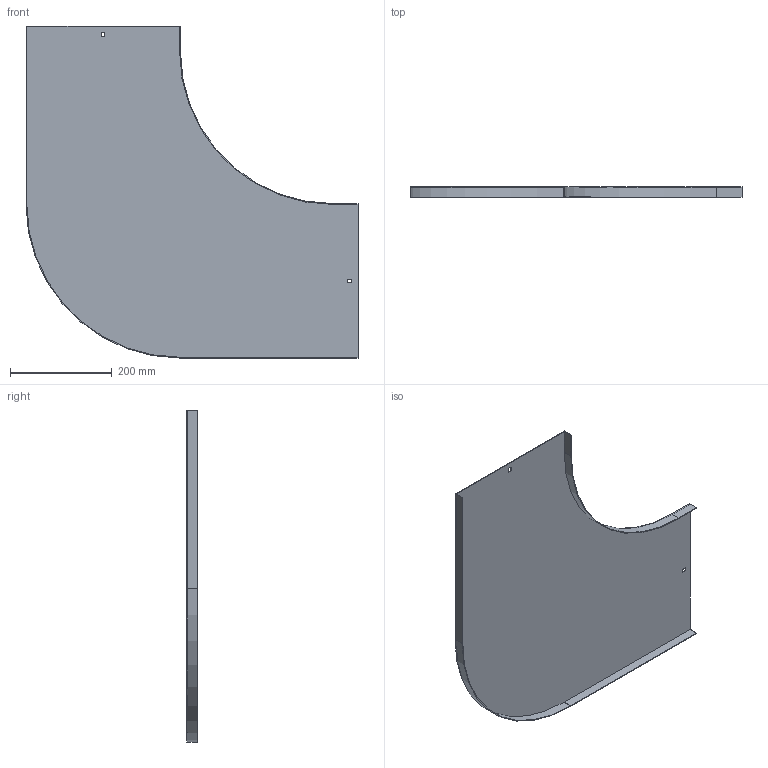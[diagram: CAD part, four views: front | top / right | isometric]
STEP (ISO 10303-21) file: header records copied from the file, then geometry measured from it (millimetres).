
FILE_DESCRIPTION (( 'STEP AP214' ), '1' );
FILE_NAME ('B2_10N3R300.step', '2025-02-21T10:54:21', ( '' ), ( '' ), 'SwSTEP 2.0', 'SolidWorks 2023', '' );
FILE_SCHEMA (( 'AUTOMOTIVE_DESIGN' ));
Length unit declared in the file: millimetre
Products named in the file (1): B2_10N3R300
Bounding box: 651.5 x 20 x 651.5 mm (x, y, z)
Volume: 502098.8 mm3; surface area: 673191.8 mm2
Topology: 1 solids, 1 shells, 26 faces, 72 edges, 48 vertices
Faces by surface type: plane 22, cylinder 4
Entity records: 855 total; most frequent: CARTESIAN_POINT 147, ORIENTED_EDGE 144, DIRECTION 134, EDGE_CURVE 72, VECTOR 64, LINE 64, VERTEX_POINT 48, AXIS2_PLACEMENT_3D 35
